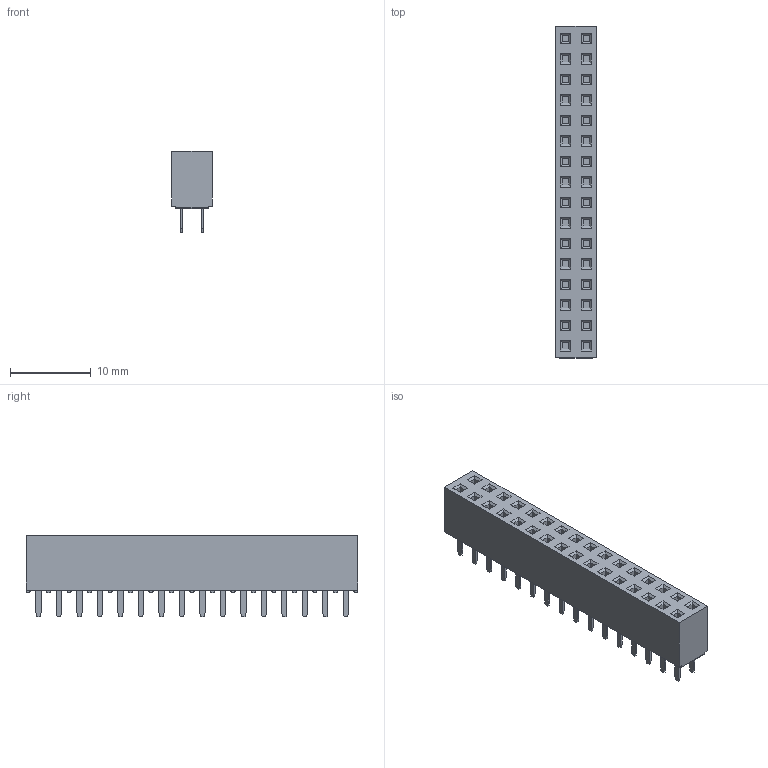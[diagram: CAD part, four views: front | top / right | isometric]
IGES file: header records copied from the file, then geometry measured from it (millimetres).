
Global section: file name: N:\GOLF_VI_2_54mm_UGII\960XXX-6X0X-XX (TS-2187)\960232-6202-XX.igs; native system: NX V3.0; preprocessor: UGS NX IGES V4.0; date: 20070618.080031; units: millimetre
Bounding box: 5 x 41.14 x 10.1 mm (x, y, z)
Surface area: 1607.9 mm2 (no closed solid volume)
Topology: 0 solids, 0 shells, 635 faces, 3068 edges, 3068 vertices
Faces by surface type: bspline 635
